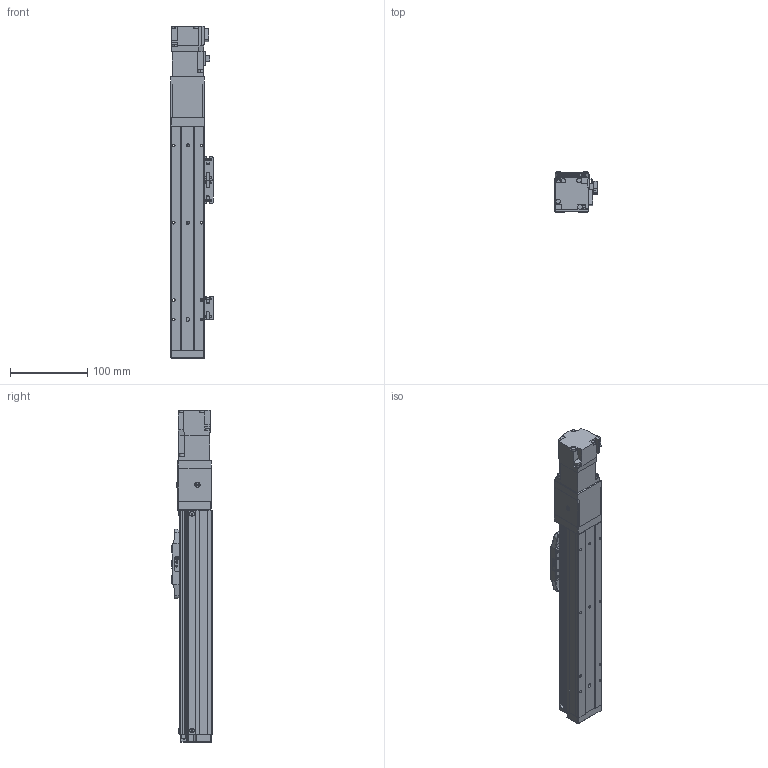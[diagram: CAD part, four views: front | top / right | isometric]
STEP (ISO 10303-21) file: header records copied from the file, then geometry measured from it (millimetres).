
FILE_DESCRIPTION (( 'STEP AP203' ), '1' );
FILE_NAME ('BTH40-150-BC-M05-C4.step', '2021-12-16T00:11:10', ( '微软用户' ), ( '微软中国' ), 'SwSTEP 2.0', 'SolidWorks 2020', '' );
FILE_SCHEMA (( 'CONFIG_CONTROL_DESIGN' ));
Length unit declared in the file: millimetre
Products named in the file (19): BTH40-004; BTH40-006; BTH40-013; BTH-M3X5X6; BTH50-024; HG-KR13; GBT70.1-2000 M3×16; GBT 70.1-M3℅6; GBT 70.3-M3℅6; BTH50-028; GBT96.1-2002 3×0.8; BTH40-017; BTH50-023; BTH40-022; BTH40-005-1; BTH40-001-50_BTH40-001-150; GBT 70.1-M2.5×6; BTH40-150-BC-M05-C4; BTH40-003
Assembly tree (49 placements, depth 2):
  BTH40-150-BC-M05-C4
    BTH40-001-50_BTH40-001-150
    BTH40-003
    BTH40-006
    BTH-M3X5X6  x10
    GBT70.1-2000 M3×16  x4
    BTH50-028  x2
    BTH50-023  x3
    BTH50-024  x3
    GBT 70.1-M3℅6  x6
    GBT96.1-2002 3×0.8  x6
    BTH40-022
    GBT 70.1-M2.5×6  x2
    BTH40-004
    BTH40-013
    HG-KR13
    GBT 70.3-M3℅6  x4
    BTH40-017
    BTH40-005-1
Bounding box: 55.2 x 52 x 429.4 mm (x, y, z)
Volume: 697151.1 mm3; surface area: 156358.8 mm2
Topology: 51 solids, 51 shells, 1950 faces, 4585 edges, 2836 vertices
Faces by surface type: plane 1088, cylinder 453, cone 257, torus 132, bspline 16, sphere 4
Entity records: 37391 total; most frequent: CARTESIAN_POINT 6766, DIRECTION 5860, ORIENTED_EDGE 5632, EDGE_CURVE 2816, VECTOR 2002, LINE 2002, AXIS2_PLACEMENT_3D 1929, VERTEX_POINT 1767
